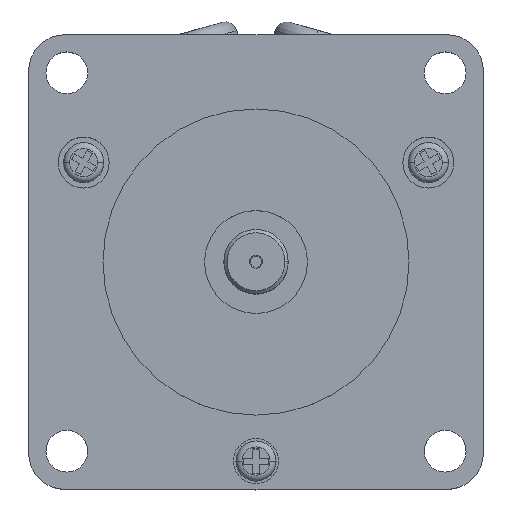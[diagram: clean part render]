
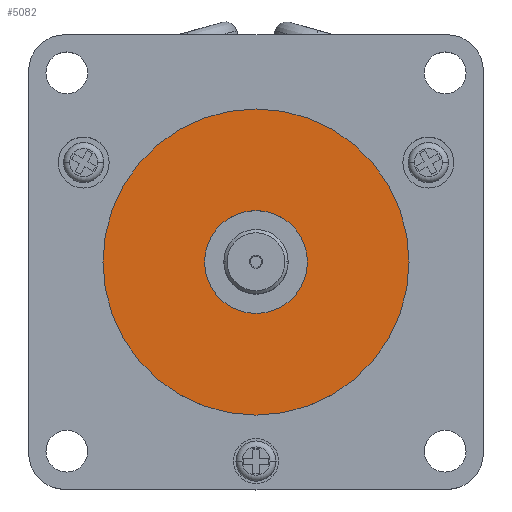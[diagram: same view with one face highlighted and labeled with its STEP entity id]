
A CAD part, top view. The second image highlights one B-rep face of the part: STEP entity #5082.
In plain terms, the highlighted planar face has unit normal (0, 0, 1).
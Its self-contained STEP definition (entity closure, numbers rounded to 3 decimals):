
#47 = FACE_OUTER_BOUND ( 'NONE', #3877, .T. ) ;
#307 = CARTESIAN_POINT ( 'NONE',  ( 6.4, 0., 1.5 ) ) ;
#472 = DIRECTION ( 'NONE',  ( 0., 0., 1. ) ) ;
#493 = CIRCLE ( 'NONE', #4181, 6.4 ) ;
#682 = AXIS2_PLACEMENT_3D ( 'NONE', #2009, #4001, #4494 ) ;
#929 = ORIENTED_EDGE ( 'NONE', *, *, #1338, .T. ) ;
#1074 = ORIENTED_EDGE ( 'NONE', *, *, #6108, .F. ) ;
#1239 = CIRCLE ( 'NONE', #682, 19.04 ) ;
#1338 = EDGE_CURVE ( 'NONE', #2670, #4213, #6083, .T. ) ;
#1524 = ORIENTED_EDGE ( 'NONE', *, *, #2137, .F. ) ;
#2009 = CARTESIAN_POINT ( 'NONE',  ( 0., 0., 1.5 ) ) ;
#2074 = PLANE ( 'NONE',  #2083 ) ;
#2083 = AXIS2_PLACEMENT_3D ( 'NONE', #4089, #2939, #4967 ) ;
#2086 = ORIENTED_EDGE ( 'NONE', *, *, #2246, .T. ) ;
#2126 = AXIS2_PLACEMENT_3D ( 'NONE', #6009, #472, #3467 ) ;
#2137 = EDGE_CURVE ( 'NONE', #3524, #5277, #3030, .T. ) ;
#2246 = EDGE_CURVE ( 'NONE', #4213, #2670, #1239, .T. ) ;
#2372 = CARTESIAN_POINT ( 'NONE',  ( 0., 0., 1.5 ) ) ;
#2500 = DIRECTION ( 'NONE',  ( 1., 0., 0. ) ) ;
#2670 = VERTEX_POINT ( 'NONE', #2985 ) ;
#2863 = DIRECTION ( 'NONE',  ( 0., 0., 1. ) ) ;
#2868 = DIRECTION ( 'NONE',  ( 0., 0., 1. ) ) ;
#2939 = DIRECTION ( 'NONE',  ( 0., 0., -1. ) ) ;
#2985 = CARTESIAN_POINT ( 'NONE',  ( 19.04, 0., 1.5 ) ) ;
#3030 = CIRCLE ( 'NONE', #5364, 6.4 ) ;
#3467 = DIRECTION ( 'NONE',  ( 1., 0., 0. ) ) ;
#3524 = VERTEX_POINT ( 'NONE', #307 ) ;
#3877 = EDGE_LOOP ( 'NONE', ( #929, #2086 ) ) ;
#4001 = DIRECTION ( 'NONE',  ( 0., 0., 1. ) ) ;
#4030 = CARTESIAN_POINT ( 'NONE',  ( 0., 0., 1.5 ) ) ;
#4089 = CARTESIAN_POINT ( 'NONE',  ( 0., 19.04, 1.5 ) ) ;
#4181 = AXIS2_PLACEMENT_3D ( 'NONE', #2372, #2863, #5397 ) ;
#4213 = VERTEX_POINT ( 'NONE', #4674 ) ;
#4494 = DIRECTION ( 'NONE',  ( 1., 0., 0. ) ) ;
#4593 = FACE_BOUND ( 'NONE', #4863, .T. ) ;
#4674 = CARTESIAN_POINT ( 'NONE',  ( -19.04, 0., 1.5 ) ) ;
#4863 = EDGE_LOOP ( 'NONE', ( #1524, #1074 ) ) ;
#4967 = DIRECTION ( 'NONE',  ( -1., 0., 0. ) ) ;
#5082 = ADVANCED_FACE ( 'NONE', ( #4593, #47 ), #2074, .F. ) ;
#5120 = CARTESIAN_POINT ( 'NONE',  ( -6.4, 0., 1.5 ) ) ;
#5277 = VERTEX_POINT ( 'NONE', #5120 ) ;
#5364 = AXIS2_PLACEMENT_3D ( 'NONE', #4030, #2868, #2500 ) ;
#5397 = DIRECTION ( 'NONE',  ( 1., 0., 0. ) ) ;
#6009 = CARTESIAN_POINT ( 'NONE',  ( 0., 0., 1.5 ) ) ;
#6083 = CIRCLE ( 'NONE', #2126, 19.04 ) ;
#6108 = EDGE_CURVE ( 'NONE', #5277, #3524, #493, .T. ) ;
